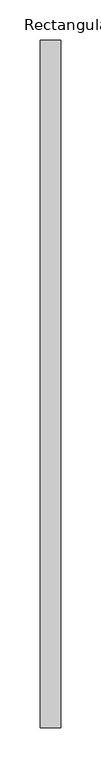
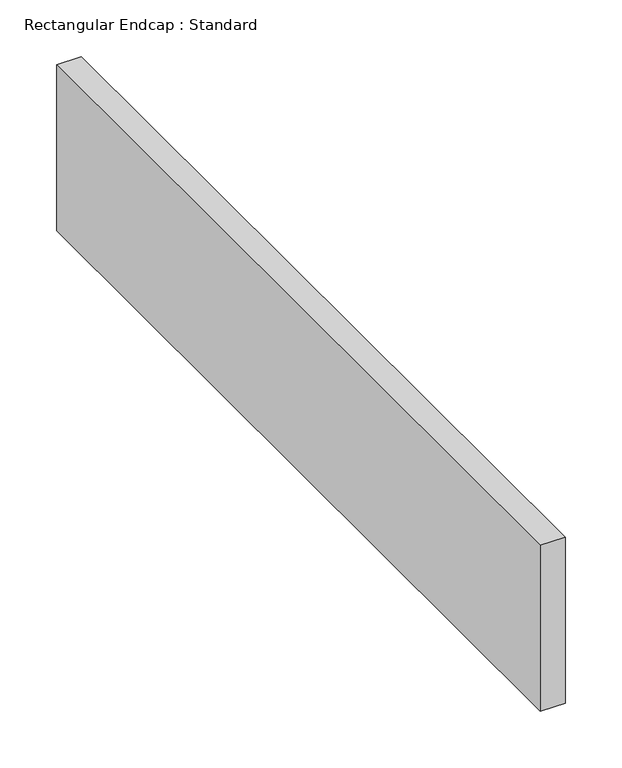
"""IFC4 building model written with IfcOpenShell, lengths in millimetres: duct fitting geometry, Rectangular Endcap : Standard."""

from ifc_helpers import new_model, si_unit, frame, origin, place, context, project, spatial, polyline, outline, extrude, source, transform, mapped, element, save


def rectangular_endcap_standard_66f4b2b8(model_context):
    return source(origin(), model_context, "Body", "SweptSolid", [
        extrude(outline(polyline([(0.0, -427.83125), (0.0, 427.83125), (25.4, 427.83125), (25.4, -427.83125), (0.0, -427.83125)])), frame((0.0, 0.0, -89.69375), z_axis=(0.0, 0.0, 1.0), x_axis=(1.0, 0.0, 0.0)), (0.0, 0.0, 1.0), 179.3875),
    ])


if __name__ == "__main__":
    model = new_model("IFC4")
    model_context = context("Model", 3, world=origin())
    ifc_project = project(units=[si_unit("LENGTHUNIT", "METRE", prefix="MILLI")], contexts=[model_context])
    site = spatial("IfcSite", under=ifc_project)
    building = spatial("IfcBuilding", under=site)
    placement = place(None, origin())
    rectangular_endcap_standard_shape = rectangular_endcap_standard_66f4b2b8(model_context)
    element("IfcDuctFitting", 1, ObjectType="Rectangular Endcap : Standard", at=placement, inside=building, context=model_context, shape_type="MappedRepresentation", body=[
        mapped(rectangular_endcap_standard_shape, transform((0.0, 0.0, 0.0), x_axis=(1.0, 0.0, 0.0), y_axis=(0.0, 1.0, 0.0), z_axis=(0.0, 0.0, 1.0))),
    ])
    save(model, "model.ifc")
